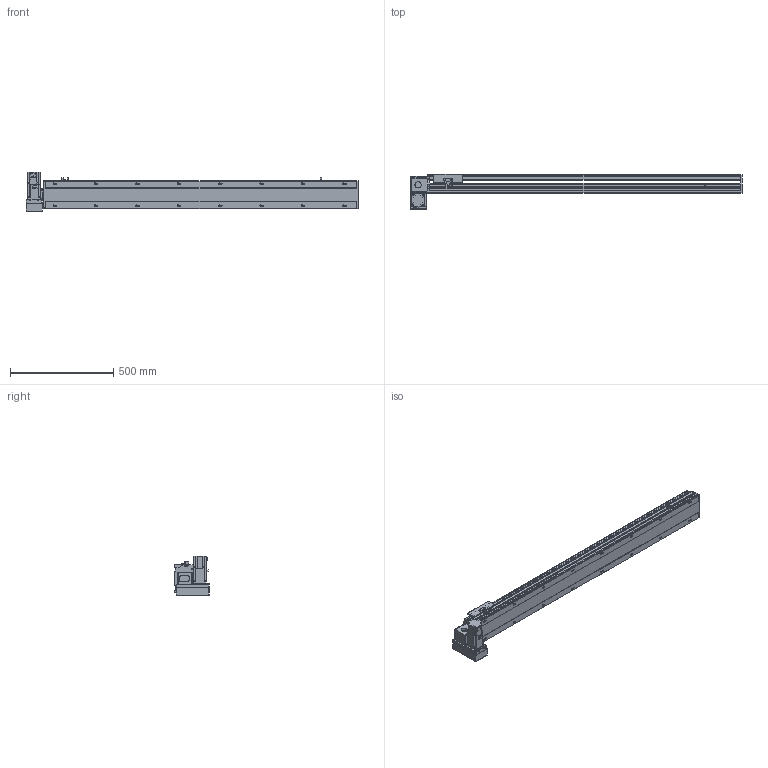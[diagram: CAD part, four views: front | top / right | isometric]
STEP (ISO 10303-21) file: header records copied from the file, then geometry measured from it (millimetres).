
FILE_DESCRIPTION(/* description */ ('STEP AP214'),/* implementation_level */ '2;1');
FILE_NAME(/* name */ 'PBS140S-P40-S1250-LD-T40-C1-N(0)',/* time_stamp */ '2022-06-09T02:25:05+02:00',/* author */ ('License CC BY-ND 4.0'),/* organization */ ('CADENAS'),/* preprocessor_version */ 'ST-DEVELOPER v18.102',/* originating_system */ 'PARTsolutions',/* authorisation */ ' ');
FILE_SCHEMA (('AUTOMOTIVE_DESIGN {1 0 10303 214 3 1 1}'));
Length unit declared in the file: millimetre
Products named in the file (7): PBS140S-P40-S1250-LD-T40-C1-N(0); PBS140S_sensor; PBS140S_plant; PBS140S_sliser; T40-p1; PBS140ST-LD_motors; PBS140S-S1250()_body
Assembly tree (8 placements, depth 2):
  PBS140S-P40-S1250-LD-T40-C1-N(0)
    PBS140S_sensor  x3
    PBS140S_plant
    PBS140S_sliser
    T40-p1
    PBS140ST-LD_motors
    PBS140S-S1250()_body
Bounding box: 1604 x 172.5 x 189.7 mm (x, y, z)
Volume: 8179343.9 mm3; surface area: 1404792.8 mm2
Topology: 8 solids, 8 shells, 1099 faces, 2911 edges, 1905 vertices
Faces by surface type: plane 702, cylinder 345, cone 42, sphere 8, torus 2
Full cylindrical faces by diameter (mm): 3.242 x4, 4 x2, 4.134 x4, 4.4 x8, 4.5 x2, 4.8 x4, 4.917 x24, 5.5 x7, 6 x2, 7 x18, 7.5 x8, 8 x12, 8.5 x4, 10.5 x16, 14 x1, 30 x2, 50 x2
Entity records: 31496 total; most frequent: CARTESIAN_POINT 5816, DIRECTION 5348, ORIENTED_EDGE 5062, EDGE_CURVE 2531, AXIS2_PLACEMENT_3D 1859, VERTEX_POINT 1753, LINE 1630, VECTOR 1630
